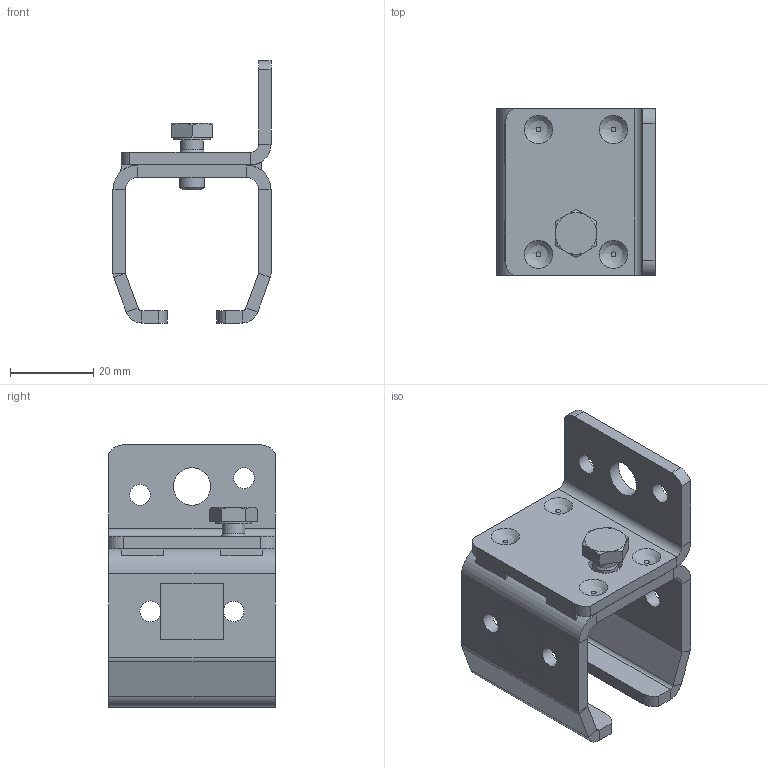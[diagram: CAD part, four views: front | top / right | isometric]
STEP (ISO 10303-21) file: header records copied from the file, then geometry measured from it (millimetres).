
FILE_DESCRIPTION(/* description */ ('Wandbefestigung Nr.0'),/* implementation_level */ '2;1');
FILE_NAME(/* name */ 'Q:\sge-ma\Produktmanagement-STB\STB\Workspace\stp\010333005.stp',/* time_stamp */ '2015-03-26T09:24:51+01:00',/* author */ ('avschreier'),/* organization */ (''),/* preprocessor_version */ 'ST-DEVELOPER v15.6',/* originating_system */ 'Autodesk Inventor 2015',/* authorisation */ '');
FILE_SCHEMA (('CONFIG_CONTROL_DESIGN'));
Length unit declared in the file: millimetre
Products named in the file (5): 010333005_Schweißnähte; 337000260; 335140000; DIN_EN_ISO_4017-M6x12_en; 010333005
Bounding box: 38 x 40 x 63 mm (x, y, z)
Volume: 20709 mm3; surface area: 16347.6 mm2
Topology: 7 solids, 7 shells, 157 faces, 341 edges, 208 vertices
Faces by surface type: plane 100, cylinder 41, bspline 8, cone 8
Full cylindrical faces by diameter (mm): 4.917 x3, 5 x5, 5.459 x1, 6 x1, 8 x1, 8.7 x1, 9 x1
Entity records: 4430 total; most frequent: CARTESIAN_POINT 938, DIRECTION 730, ORIENTED_EDGE 646, EDGE_CURVE 321, AXIS2_PLACEMENT_3D 271, VERTEX_POINT 203, EDGE_LOOP 202, LINE 188
